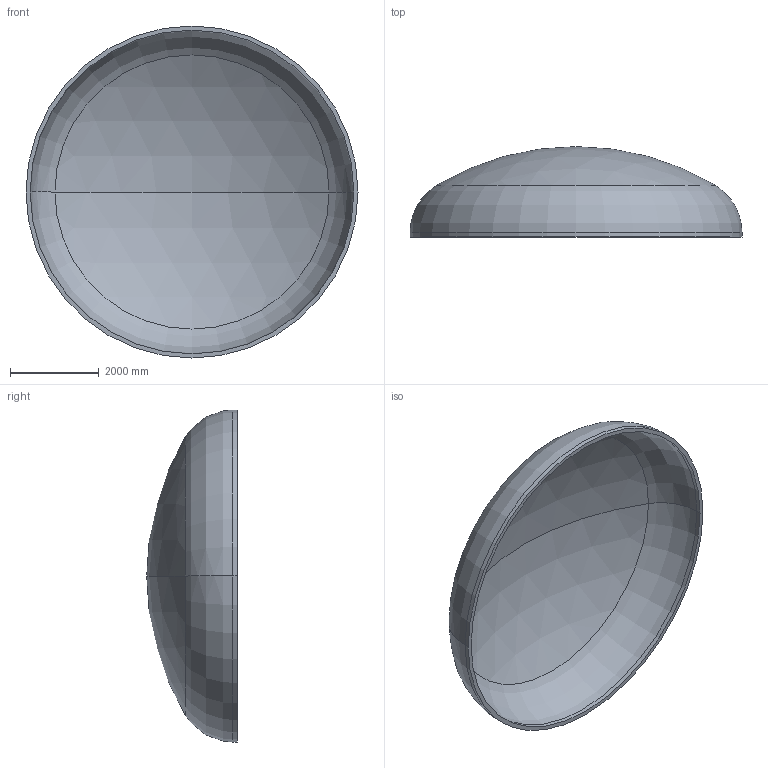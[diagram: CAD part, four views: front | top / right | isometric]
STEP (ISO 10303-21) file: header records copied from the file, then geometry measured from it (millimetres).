
FILE_DESCRIPTION (( 'STEP AP203' ), '1' );
FILE_NAME ('DIN 28013 Korbbogenform_-_Boden DIN 28013 - 7500 x 100 - I - s=94.step', '2016-07-04T10:56:42', ( '' ), ( '' ), 'SwSTEP 2.0', 'SolidWorks 2013', '' );
FILE_SCHEMA (( 'CONFIG_CONTROL_DESIGN' ));
Length unit declared in the file: millimetre
Products named in the file (1): DIN 28013 Korbbogenform_-_Boden DIN 28013 - 7500 x 100 - I - s=94
Bounding box: 7500 x 2044.42 x 7500 mm (x, y, z)
Volume: 5875754269.9 mm3; surface area: 127221570.1 mm2
Topology: 1 solids, 1 shells, 13 faces, 24 edges, 14 vertices
Faces by surface type: torus 4, cylinder 4, sphere 4, plane 1
Entity records: 407 total; most frequent: DIRECTION 72, CARTESIAN_POINT 52, ORIENTED_EDGE 48, AXIS2_PLACEMENT_3D 34, EDGE_CURVE 24, CIRCLE 20, EDGE_LOOP 14, VERTEX_POINT 14
